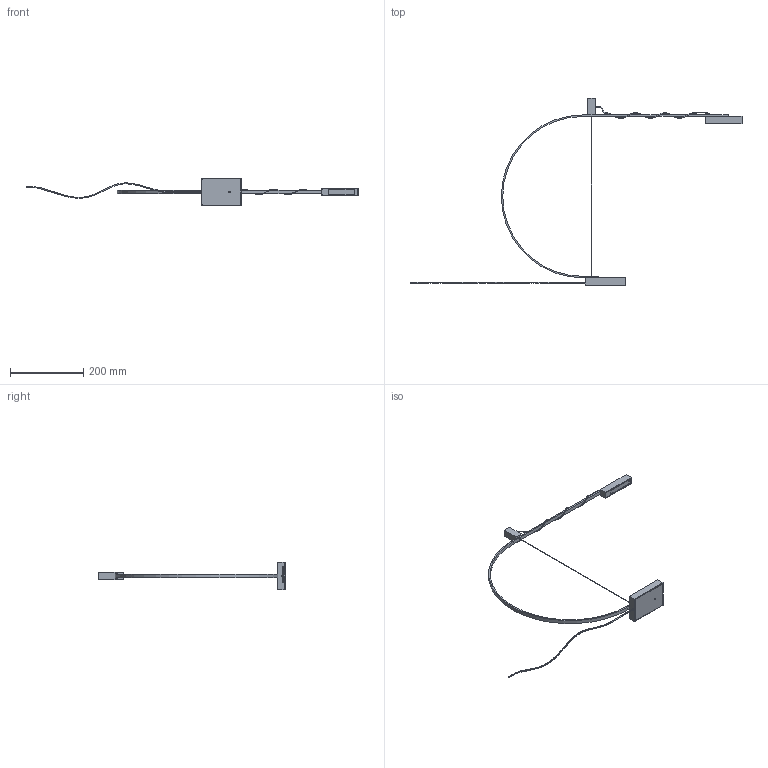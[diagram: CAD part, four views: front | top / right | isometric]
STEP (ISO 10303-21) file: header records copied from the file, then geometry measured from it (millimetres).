
FILE_DESCRIPTION (( 'STEP AP203' ), '1' );
FILE_NAME ('CUPLHH11_CUPIDO.STEP', '2025-11-17T15:45:33', ( '' ), ( '' ), 'SwSTEP 2.0', 'SolidWorks 2016', '' );
FILE_SCHEMA (( 'CONFIG_CONTROL_DESIGN' ));
Length unit declared in the file: millimetre
Products named in the file (1): CUPLHH11_CUPIDO
Bounding box: 905.51 x 510 x 75 mm (x, y, z)
Volume: 278683 mm3; surface area: 78871.5 mm2
Topology: 6 solids, 6 shells, 149 faces, 361 edges, 236 vertices
Faces by surface type: plane 75, cylinder 58, torus 8, bspline 6, cone 2
Entity records: 8397 total; most frequent: CARTESIAN_POINT 4749, DIRECTION 772, ORIENTED_EDGE 718, EDGE_CURVE 359, AXIS2_PLACEMENT_3D 285, VERTEX_POINT 236, VECTOR 202, LINE 202
